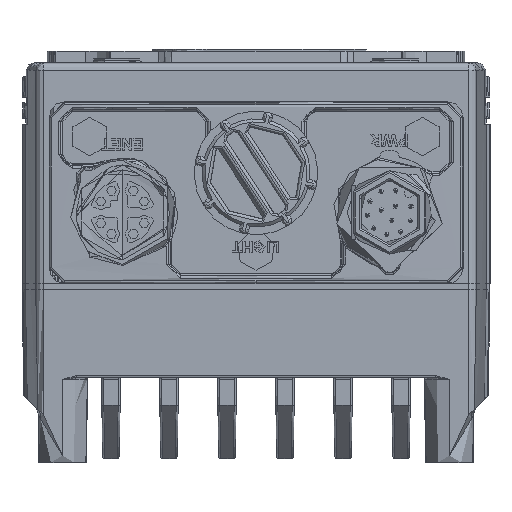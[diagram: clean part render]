
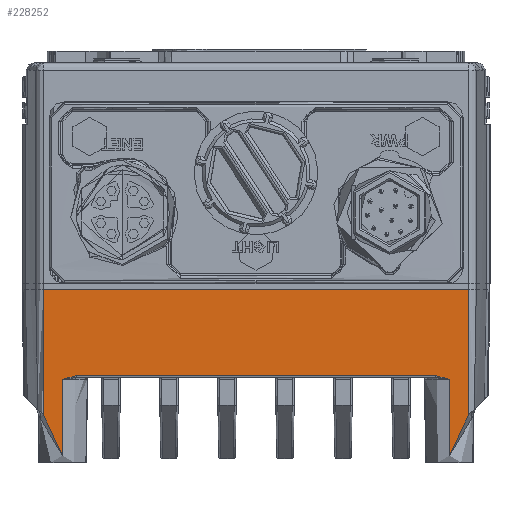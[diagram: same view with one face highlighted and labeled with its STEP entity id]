
A CAD part, front view. The second image highlights one B-rep face of the part: STEP entity #228252.
In plain terms, the highlighted planar face has unit normal (0, -1, -0.018).
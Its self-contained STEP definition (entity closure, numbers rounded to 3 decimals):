
#463 = CARTESIAN_POINT ( 'NONE',  ( -25., -76., -26.064 ) ) ;
#1306 = DIRECTION ( 'NONE',  ( 0., -0.017, 1. ) ) ;
#1483 = CARTESIAN_POINT ( 'NONE',  ( 26.395, -75.689, -43.853 ) ) ;
#15252 = ORIENTED_EDGE ( 'NONE', *, *, #371117, .F. ) ;
#18484 = CARTESIAN_POINT ( 'NONE',  ( -27.478, -75.718, -42.238 ) ) ;
#19366 = ORIENTED_EDGE ( 'NONE', *, *, #355514, .T. ) ;
#20982 = CARTESIAN_POINT ( 'NONE',  ( -26.188, -75.682, -44.298 ) ) ;
#26302 = CARTESIAN_POINT ( 'NONE',  ( -23.538, -75.806, -37.154 ) ) ;
#26688 = EDGE_LOOP ( 'NONE', ( #178869, #260632, #280983, #165280, #180249, #19366, #352525, #56215, #15252, #359399 ) ) ;
#29341 = VECTOR ( 'NONE', #88691, 1000. ) ;
#33787 = VECTOR ( 'NONE', #177526, 1000. ) ;
#41752 = CARTESIAN_POINT ( 'NONE',  ( 24.428, -75.802, -37.411 ) ) ;
#43674 = VERTEX_POINT ( 'NONE', #305112 ) ;
#46986 = VERTEX_POINT ( 'NONE', #304092 ) ;
#52898 = EDGE_CURVE ( 'NONE', #46986, #363101, #297830, .T. ) ;
#54023 = VECTOR ( 'NONE', #1306, 1000. ) ;
#54178 = CARTESIAN_POINT ( 'NONE',  ( -24.714, -75.8, -37.528 ) ) ;
#55886 = B_SPLINE_CURVE_WITH_KNOTS ( 'NONE', 3,
 ( #227524, #54178, #254207, #285794, #26302, #112372 ),
 .UNSPECIFIED., .F., .F.,
 ( 4, 2, 4 ),
 ( 0., 0.001, 0.002 ),
 .UNSPECIFIED. ) ;
#56215 = ORIENTED_EDGE ( 'NONE', *, *, #144695, .T. ) ;
#56576 = CARTESIAN_POINT ( 'NONE',  ( -23.226, -75.806, -37.154 ) ) ;
#57011 = CARTESIAN_POINT ( 'NONE',  ( -27.478, -76., -26.064 ) ) ;
#62532 = EDGE_CURVE ( 'NONE', #369635, #82764, #151425, .T. ) ;
#66490 = B_SPLINE_CURVE_WITH_KNOTS ( 'NONE', 3,
 ( #177309, #203922, #296242, #122892, #1483, #117923, #293780, #148244 ),
 .UNSPECIFIED., .F., .F.,
 ( 4, 2, 2, 4 ),
 ( 0., 0.003, 0.004, 0.006 ),
 .UNSPECIFIED. ) ;
#70882 = CARTESIAN_POINT ( 'NONE',  ( 25., -75.798, -37.646 ) ) ;
#71881 = EDGE_CURVE ( 'NONE', #363101, #200487, #373225, .T. ) ;
#76762 = CARTESIAN_POINT ( 'NONE',  ( -26.874, -75.704, -43.006 ) ) ;
#82764 = VERTEX_POINT ( 'NONE', #363043 ) ;
#85636 = LINE ( 'NONE', #172180, #54023 ) ;
#88691 = DIRECTION ( 'NONE',  ( 0., 0.017, -1. ) ) ;
#90809 = VECTOR ( 'NONE', #205439, 1000. ) ;
#93555 = CARTESIAN_POINT ( 'NONE',  ( 25., -75.626, -47.504 ) ) ;
#96699 = DIRECTION ( 'NONE',  ( 0., 0.017, -1. ) ) ;
#97007 = CARTESIAN_POINT ( 'NONE',  ( 25., -75.806, -37.154 ) ) ;
#99830 = EDGE_CURVE ( 'NONE', #43674, #204056, #162606, .T. ) ;
#105856 = CARTESIAN_POINT ( 'NONE',  ( -25.393, -75.646, -46.347 ) ) ;
#112372 = CARTESIAN_POINT ( 'NONE',  ( -23.226, -75.806, -37.154 ) ) ;
#117923 = CARTESIAN_POINT ( 'NONE',  ( 26.874, -75.704, -43.005 ) ) ;
#121996 = VECTOR ( 'NONE', #204471, 1000. ) ;
#122892 = CARTESIAN_POINT ( 'NONE',  ( 26.187, -75.682, -44.299 ) ) ;
#127801 = CARTESIAN_POINT ( 'NONE',  ( 23.538, -75.806, -37.154 ) ) ;
#129048 = CARTESIAN_POINT ( 'NONE',  ( 23.226, -75.806, -37.154 ) ) ;
#133575 = CARTESIAN_POINT ( 'NONE',  ( 27.478, -76., -26.064 ) ) ;
#134821 = CARTESIAN_POINT ( 'NONE',  ( -25., -75.626, -47.504 ) ) ;
#135758 = VERTEX_POINT ( 'NONE', #314975 ) ;
#144695 = EDGE_CURVE ( 'NONE', #82764, #135758, #254458, .T. ) ;
#148244 = CARTESIAN_POINT ( 'NONE',  ( 27.478, -75.718, -42.238 ) ) ;
#151425 = LINE ( 'NONE', #97007, #223704 ) ;
#153564 = CARTESIAN_POINT ( 'NONE',  ( -969.744, -76., -26.064 ) ) ;
#158144 = CARTESIAN_POINT ( 'NONE',  ( 23.838, -75.805, -37.225 ) ) ;
#162606 = LINE ( 'NONE', #266490, #121996 ) ;
#165280 = ORIENTED_EDGE ( 'NONE', *, *, #52898, .T. ) ;
#172180 = CARTESIAN_POINT ( 'NONE',  ( 27.478, -76., -26.064 ) ) ;
#172825 = FACE_OUTER_BOUND ( 'NONE', #26688, .T. ) ;
#175770 = CARTESIAN_POINT ( 'NONE',  ( 27.478, -75.718, -42.238 ) ) ;
#177309 = CARTESIAN_POINT ( 'NONE',  ( 25., -75.626, -47.504 ) ) ;
#177526 = DIRECTION ( 'NONE',  ( 0., -0.017, 1. ) ) ;
#178869 = ORIENTED_EDGE ( 'NONE', *, *, #209110, .T. ) ;
#180249 = ORIENTED_EDGE ( 'NONE', *, *, #71881, .T. ) ;
#185838 = LINE ( 'NONE', #294035, #90809 ) ;
#187207 = CARTESIAN_POINT ( 'NONE',  ( 24.716, -75.8, -37.529 ) ) ;
#192986 = CARTESIAN_POINT ( 'NONE',  ( -25.638, -75.658, -45.656 ) ) ;
#200487 = VERTEX_POINT ( 'NONE', #206403 ) ;
#203922 = CARTESIAN_POINT ( 'NONE',  ( 25.31, -75.642, -46.578 ) ) ;
#204056 = VERTEX_POINT ( 'NONE', #133575 ) ;
#204471 = DIRECTION ( 'NONE',  ( 1., 0., 0. ) ) ;
#205439 = DIRECTION ( 'NONE',  ( 0., -0.017, 1. ) ) ;
#206403 = CARTESIAN_POINT ( 'NONE',  ( -25., -75.798, -37.646 ) ) ;
#209110 = EDGE_CURVE ( 'NONE', #317600, #204056, #85636, .T. ) ;
#214629 = DIRECTION ( 'NONE',  ( 1., 0., 0. ) ) ;
#218756 = EDGE_CURVE ( 'NONE', #43674, #46986, #282940, .T. ) ;
#223704 = VECTOR ( 'NONE', #214629, 1000. ) ;
#227524 = CARTESIAN_POINT ( 'NONE',  ( -25., -75.798, -37.646 ) ) ;
#228252 = ADVANCED_FACE ( 'NONE', ( #172825 ), #301573, .T. ) ;
#242109 = AXIS2_PLACEMENT_3D ( 'NONE', #153564, #270025, #96699 ) ;
#245168 = EDGE_CURVE ( 'NONE', #256548, #317600, #66490, .T. ) ;
#250082 = CARTESIAN_POINT ( 'NONE',  ( -27.144, -75.711, -42.602 ) ) ;
#254207 = CARTESIAN_POINT ( 'NONE',  ( -24.428, -75.802, -37.411 ) ) ;
#254458 = B_SPLINE_CURVE_WITH_KNOTS ( 'NONE', 3,
 ( #129048, #127801, #158144, #41752, #187207, #70882 ),
 .UNSPECIFIED., .F., .F.,
 ( 4, 2, 4 ),
 ( 0., 0.001, 0.002 ),
 .UNSPECIFIED. ) ;
#256548 = VERTEX_POINT ( 'NONE', #93555 ) ;
#260632 = ORIENTED_EDGE ( 'NONE', *, *, #99830, .F. ) ;
#266490 = CARTESIAN_POINT ( 'NONE',  ( -969.744, -76., -26.064 ) ) ;
#270025 = DIRECTION ( 'NONE',  ( 0., -1., -0.017 ) ) ;
#279224 = CARTESIAN_POINT ( 'NONE',  ( -26.395, -75.689, -43.853 ) ) ;
#280983 = ORIENTED_EDGE ( 'NONE', *, *, #218756, .T. ) ;
#282940 = LINE ( 'NONE', #57011, #29341 ) ;
#285794 = CARTESIAN_POINT ( 'NONE',  ( -23.838, -75.805, -37.225 ) ) ;
#293780 = CARTESIAN_POINT ( 'NONE',  ( 27.145, -75.711, -42.601 ) ) ;
#294035 = CARTESIAN_POINT ( 'NONE',  ( 25., -76., -26.064 ) ) ;
#296242 = CARTESIAN_POINT ( 'NONE',  ( 25.62, -75.658, -45.65 ) ) ;
#297830 = B_SPLINE_CURVE_WITH_KNOTS ( 'NONE', 3,
 ( #18484, #250082, #76762, #279224, #20982, #310713, #192986, #105856, #308181, #339834, #338606, #134821 ),
 .UNSPECIFIED., .F., .F.,
 ( 4, 2, 2, 2, 2, 4 ),
 ( 0., 0.001, 0.003, 0.004, 0.005, 0.006 ),
 .UNSPECIFIED. ) ;
#301573 = PLANE ( 'NONE',  #242109 ) ;
#304092 = CARTESIAN_POINT ( 'NONE',  ( -27.478, -75.718, -42.238 ) ) ;
#305112 = CARTESIAN_POINT ( 'NONE',  ( -27.478, -76., -26.064 ) ) ;
#308181 = CARTESIAN_POINT ( 'NONE',  ( -25.313, -75.642, -46.578 ) ) ;
#310713 = CARTESIAN_POINT ( 'NONE',  ( -25.809, -75.666, -45.199 ) ) ;
#314975 = CARTESIAN_POINT ( 'NONE',  ( 25., -75.798, -37.646 ) ) ;
#316835 = CARTESIAN_POINT ( 'NONE',  ( -25., -75.626, -47.504 ) ) ;
#317600 = VERTEX_POINT ( 'NONE', #175770 ) ;
#338606 = CARTESIAN_POINT ( 'NONE',  ( -25.077, -75.63, -47.273 ) ) ;
#339834 = CARTESIAN_POINT ( 'NONE',  ( -25.155, -75.634, -47.04 ) ) ;
#352525 = ORIENTED_EDGE ( 'NONE', *, *, #62532, .T. ) ;
#355514 = EDGE_CURVE ( 'NONE', #200487, #369635, #55886, .T. ) ;
#359399 = ORIENTED_EDGE ( 'NONE', *, *, #245168, .T. ) ;
#363043 = CARTESIAN_POINT ( 'NONE',  ( 23.226, -75.806, -37.154 ) ) ;
#363101 = VERTEX_POINT ( 'NONE', #316835 ) ;
#369635 = VERTEX_POINT ( 'NONE', #56576 ) ;
#371117 = EDGE_CURVE ( 'NONE', #256548, #135758, #185838, .T. ) ;
#373225 = LINE ( 'NONE', #463, #33787 ) ;
